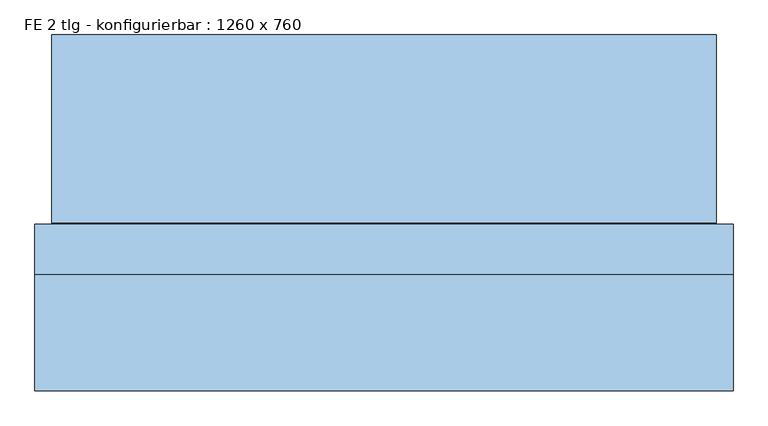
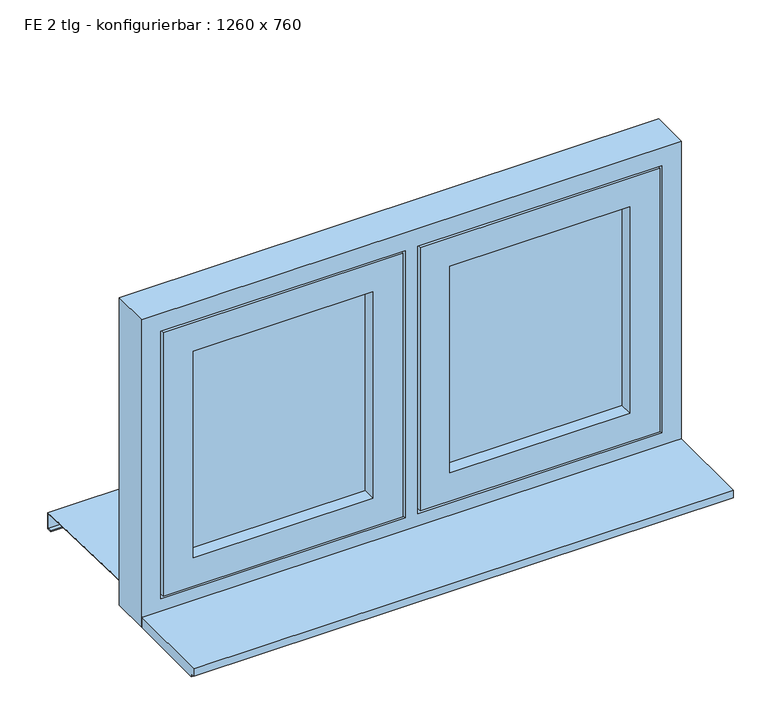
"""IFC4 building model written with IfcOpenShell, lengths in millimetres: window geometry, FE 2 tlg - konfigurierbar : 1260 x 760."""

from ifc_helpers import new_model, si_unit, frame, origin, place, context, project, spatial, polyline, outline, extrude, faceted_brep, source, transform, mapped, element, save


def fe_2_tlg_konfigurierbar_1260_x_760_2a4c1234(model_context):
    return source(origin(), model_context, "Body", "SolidModel", [
        faceted_brep([(510.0, -20.0, 1490.0), (510.0, 70.0, 1490.0), (510.0, 70.0, 980.0), (510.0, -20.0, 980.0), (540.0, 70.0, 950.0), (60.0, 70.0, 950.0), (60.0, 70.0, 1520.0), (540.0, 70.0, 1520.0), (90.0, 70.0, 1490.0), (90.0, 70.0, 980.0), (90.0, -20.0, 980.0), (580.0, -20.0, 1560.0), (20.0, -20.0, 1560.0), (20.0, -20.0, 910.0), (580.0, -20.0, 910.0), (90.0, -20.0, 1490.0), (580.0, -5.0, 1560.0), (580.0, -5.0, 910.0), (20.0, -5.0, 910.0), (20.0, -5.0, 1560.0), (565.0, -5.0, 1545.0), (35.0, -5.0, 1545.0), (35.0, -5.0, 925.0), (565.0, -5.0, 925.0), (565.0, 25.0, 1545.0), (565.0, 25.0, 925.0), (35.0, 25.0, 925.0), (35.0, 25.0, 1545.0), (555.0, 25.0, 1535.0), (45.0, 25.0, 1535.0), (45.0, 25.0, 935.0), (555.0, 25.0, 935.0), (555.0, 55.0, 1535.0), (555.0, 55.0, 935.0), (45.0, 55.0, 935.0), (45.0, 55.0, 1535.0), (540.0, 55.0, 1520.0), (60.0, 55.0, 1520.0), (60.0, 55.0, 950.0), (540.0, 55.0, 950.0)], [[[0, 1, 2, 3]], [[4, 5, 6, 7], [1, 8, 9, 2]], [[3, 2, 9, 10]], [[11, 12, 13, 14], [3, 10, 15, 0]], [[16, 11, 14, 17]], [[17, 14, 13, 18]], [[17, 18, 19, 16], [20, 21, 22, 23]], [[24, 20, 23, 25]], [[25, 23, 22, 26]], [[25, 26, 27, 24], [28, 29, 30, 31]], [[32, 28, 31, 33]], [[33, 31, 30, 34]], [[33, 34, 35, 32], [36, 37, 38, 39]], [[7, 36, 39, 4]], [[4, 39, 38, 5]], [[10, 9, 8, 15]], [[18, 13, 12, 19]], [[26, 22, 21, 27]], [[34, 30, 29, 35]], [[5, 38, 37, 6]], [[15, 8, 1, 0]], [[19, 12, 11, 16]], [[27, 21, 20, 24]], [[35, 29, 28, 32]], [[6, 37, 36, 7]]]),
        extrude(outline(polyline([(510.0, 55.0), (510.0, 11.0), (90.0, 11.0), (90.0, 55.0), (510.0, 55.0)])), frame((0.0, 0.0, 980.0), z_axis=(0.0, 0.0, 1.0), x_axis=(1.0, 0.0, 0.0)), (0.0, 0.0, 1.0), 510.0),
        faceted_brep([(-600.0, 412.0, 861.3125305), (-600.0, 390.0, 862.0000305), (-600.0, 72.0, 871.9375305), (600.0, 72.0, 871.9375305), (600.0, 390.0, 862.0000305), (600.0, 412.0, 861.3125305), (-600.0, 412.0, 821.3125305), (600.0, 412.0, 821.3125305), (-600.0, 400.0, 821.3125305), (600.0, 400.0, 821.3125305), (-600.0, 400.0, 823.3125305), (600.0, 400.0, 823.3125305), (-600.0, 410.0, 823.3125305), (600.0, 410.0, 823.3125305), (-600.0, 410.0, 859.375), (600.0, 410.0, 859.375), (-600.0, 390.0, 860.0), (600.0, 390.0, 860.0), (600.0, 70.0, 870.0), (-600.0, 70.0, 870.0), (-600.0, 70.0, 890.0), (600.0, 70.0, 890.0), (-600.0, 72.0, 890.0), (600.0, 72.0, 890.0)], [[[0, 1, 2, 3, 4, 5]], [[6, 0, 5, 7]], [[8, 6, 7, 9]], [[10, 8, 9, 11]], [[12, 10, 11, 13]], [[14, 12, 13, 15]], [[16, 14, 15, 17, 18, 19]], [[20, 19, 18, 21]], [[22, 20, 21, 23]], [[2, 22, 23, 3]], [[16, 1, 0, 6, 8, 10, 12, 14]], [[17, 4, 3, 23, 21, 18]], [[1, 16, 19, 20, 22, 2]], [[4, 17, 15, 13, 11, 9, 7, 5]]]),
        faceted_brep([(-90.0, -20.0, 1490.0), (-90.0, 70.0, 1490.0), (-90.0, 70.0, 980.0), (-90.0, -20.0, 980.0), (-60.0, 70.0, 950.0), (-540.0, 70.0, 950.0), (-540.0, 70.0, 1520.0), (-60.0, 70.0, 1520.0), (-510.0, 70.0, 1490.0), (-510.0, 70.0, 980.0), (-510.0, -20.0, 980.0), (-20.0, -20.0, 1560.0), (-580.0, -20.0, 1560.0), (-580.0, -20.0, 910.0), (-20.0, -20.0, 910.0), (-510.0, -20.0, 1490.0), (-20.0, -5.0, 1560.0), (-20.0, -5.0, 910.0), (-580.0, -5.0, 910.0), (-580.0, -5.0, 1560.0), (-35.0, -5.0, 1545.0), (-565.0, -5.0, 1545.0), (-565.0, -5.0, 925.0), (-35.0, -5.0, 925.0), (-35.0, 25.0, 1545.0), (-35.0, 25.0, 925.0), (-565.0, 25.0, 925.0), (-565.0, 25.0, 1545.0), (-45.0, 25.0, 1535.0), (-555.0, 25.0, 1535.0), (-555.0, 25.0, 935.0), (-45.0, 25.0, 935.0), (-45.0, 55.0, 1535.0), (-45.0, 55.0, 935.0), (-555.0, 55.0, 935.0), (-555.0, 55.0, 1535.0), (-60.0, 55.0, 1520.0), (-540.0, 55.0, 1520.0), (-540.0, 55.0, 950.0), (-60.0, 55.0, 950.0)], [[[0, 1, 2, 3]], [[4, 5, 6, 7], [1, 8, 9, 2]], [[3, 2, 9, 10]], [[11, 12, 13, 14], [3, 10, 15, 0]], [[16, 11, 14, 17]], [[17, 14, 13, 18]], [[17, 18, 19, 16], [20, 21, 22, 23]], [[24, 20, 23, 25]], [[25, 23, 22, 26]], [[25, 26, 27, 24], [28, 29, 30, 31]], [[32, 28, 31, 33]], [[33, 31, 30, 34]], [[33, 34, 35, 32], [36, 37, 38, 39]], [[7, 36, 39, 4]], [[4, 39, 38, 5]], [[10, 9, 8, 15]], [[18, 13, 12, 19]], [[26, 22, 21, 27]], [[34, 30, 29, 35]], [[5, 38, 37, 6]], [[15, 8, 1, 0]], [[19, 12, 11, 16]], [[27, 21, 20, 24]], [[35, 29, 28, 32]], [[6, 37, 36, 7]]]),
        extrude(outline(polyline([(-90.0, 55.0), (-90.0, 11.0), (-510.0, 11.0), (-510.0, 55.0), (-90.0, 55.0)])), frame((0.0, 0.0, 980.0), z_axis=(0.0, 0.0, 1.0), x_axis=(1.0, 0.0, 0.0)), (0.0, 0.0, 1.0), 510.0),
        faceted_brep([(630.0, 70.0, 850.0), (630.0, -20.0, 850.0), (-630.0, -20.0, 850.0), (-630.0, 70.0, 850.0), (630.0, 70.0, 1610.0), (630.0, -20.0, 1610.0), (-630.0, -20.0, 1610.0), (585.0, -20.0, 1565.0), (585.0, -20.0, 905.0), (15.0, -20.0, 905.0), (15.0, -20.0, 1565.0), (-15.0, -20.0, 1565.0), (-15.0, -20.0, 905.0), (-585.0, -20.0, 905.0), (-585.0, -20.0, 1565.0), (-630.0, 70.0, 1610.0), (-55.0, 70.0, 945.0), (-55.0, 70.0, 1525.0), (-545.0, 70.0, 1525.0), (-545.0, 70.0, 945.0), (545.0, 70.0, 945.0), (545.0, 70.0, 1525.0), (55.0, 70.0, 1525.0), (55.0, 70.0, 945.0), (545.0, 55.0, 945.0), (545.0, 55.0, 1525.0), (55.0, 55.0, 945.0), (55.0, 55.0, 1525.0), (-55.0, 55.0, 945.0), (-55.0, 55.0, 1525.0), (-545.0, 55.0, 945.0), (-545.0, 55.0, 1525.0), (585.0, -5.0, 1565.0), (585.0, -5.0, 905.0), (15.0, -5.0, 905.0), (15.0, -5.0, 1565.0), (-15.0, -5.0, 1565.0), (-15.0, -5.0, 905.0), (-585.0, -5.0, 905.0), (-585.0, -5.0, 1565.0), (570.0, -5.0, 1550.0), (570.0, -5.0, 920.0), (30.0, -5.0, 920.0), (30.0, -5.0, 1550.0), (570.0, 25.0, 920.0), (570.0, 25.0, 1550.0), (30.0, 25.0, 1550.0), (30.0, 25.0, 920.0), (560.0, 25.0, 1540.0), (560.0, 25.0, 930.0), (40.0, 25.0, 930.0), (40.0, 25.0, 1540.0), (560.0, 55.0, 930.0), (560.0, 55.0, 1540.0), (40.0, 55.0, 1540.0), (40.0, 55.0, 930.0), (-30.0, -5.0, 1550.0), (-30.0, -5.0, 920.0), (-570.0, -5.0, 920.0), (-570.0, -5.0, 1550.0), (-30.0, 25.0, 920.0), (-30.0, 25.0, 1550.0), (-570.0, 25.0, 1550.0), (-570.0, 25.0, 920.0), (-40.0, 25.0, 1540.0), (-40.0, 25.0, 930.0), (-560.0, 25.0, 930.0), (-560.0, 25.0, 1540.0), (-40.0, 55.0, 930.0), (-40.0, 55.0, 1540.0), (-560.0, 55.0, 1540.0), (-560.0, 55.0, 930.0)], [[[0, 1, 2, 3]], [[4, 5, 1, 0]], [[5, 6, 2, 1], [7, 8, 9, 10], [11, 12, 13, 14]], [[6, 15, 3, 2]], [[15, 4, 0, 3], [16, 17, 18, 19], [20, 21, 22, 23]], [[20, 24, 25, 21]], [[26, 23, 22, 27]], [[24, 20, 23, 26]], [[16, 28, 29, 17]], [[30, 19, 18, 31]], [[28, 16, 19, 30]], [[32, 33, 8, 7]], [[8, 33, 34, 9]], [[9, 34, 35, 10]], [[36, 37, 12, 11]], [[12, 37, 38, 13]], [[13, 38, 39, 14]], [[33, 32, 35, 34], [40, 41, 42, 43]], [[44, 45, 46, 47], [48, 49, 50, 51]], [[45, 44, 41, 40]], [[41, 44, 47, 42]], [[52, 53, 54, 55], [25, 24, 26, 27]], [[53, 52, 49, 48]], [[49, 52, 55, 50]], [[42, 47, 46, 43]], [[50, 55, 54, 51]], [[37, 36, 39, 38], [56, 57, 58, 59]], [[60, 61, 62, 63], [64, 65, 66, 67]], [[61, 60, 57, 56]], [[57, 60, 63, 58]], [[68, 69, 70, 71], [29, 28, 30, 31]], [[69, 68, 65, 64]], [[65, 68, 71, 66]], [[58, 63, 62, 59]], [[66, 71, 70, 67]], [[4, 15, 6, 5]], [[32, 7, 10, 35]], [[45, 40, 43, 46]], [[53, 48, 51, 54]], [[21, 25, 27, 22]], [[36, 11, 14, 39]], [[61, 56, 59, 62]], [[69, 64, 67, 70]], [[17, 29, 31, 18]]]),
        extrude(outline(polyline([(-230.0, 875.0), (-20.0, 875.0), (-20.0, 850.0), (-220.0, 850.0), (-220.0, 857.0), (-230.0, 857.0), (-230.0, 875.0)])), frame((-630.0, 0.0, 0.0), z_axis=(1.0, 0.0, 0.0), x_axis=(0.0, 1.0, 0.0)), (0.0, 0.0, 1.0), 1260.0),
    ])


if __name__ == "__main__":
    model = new_model("IFC4")
    model_context = context("Model", 3, world=origin())
    ifc_project = project(units=[si_unit("LENGTHUNIT", "METRE", prefix="MILLI")], contexts=[model_context])
    site = spatial("IfcSite", under=ifc_project)
    building = spatial("IfcBuilding", under=site)
    placement = place(None, origin())
    fe_2_tlg_konfigurierbar_1260_x_760_shape = fe_2_tlg_konfigurierbar_1260_x_760_2a4c1234(model_context)
    element("IfcWindow", 1, ObjectType="FE 2 tlg - konfigurierbar : 1260 x 760", at=placement, inside=building, context=model_context, shape_type="MappedRepresentation", body=[
        mapped(fe_2_tlg_konfigurierbar_1260_x_760_shape, transform((0.0, 0.0, 0.0), x_axis=(1.0, 0.0, 0.0), y_axis=(0.0, 1.0, 0.0), z_axis=(0.0, 0.0, 1.0))),
    ])
    save(model, "model.ifc")
